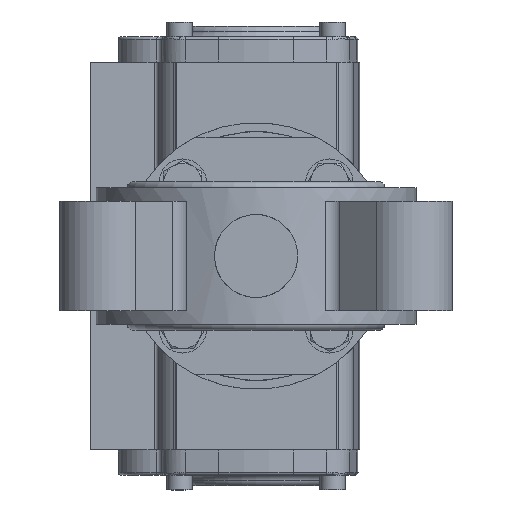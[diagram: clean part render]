
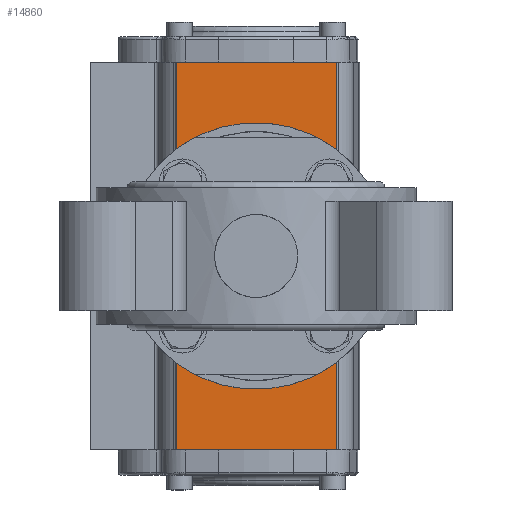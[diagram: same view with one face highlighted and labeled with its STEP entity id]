
A CAD part, front view. The second image highlights one B-rep face of the part: STEP entity #14860.
In plain terms, the highlighted planar face has unit normal (0, -1, 0).
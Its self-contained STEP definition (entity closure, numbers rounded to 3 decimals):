
#183 = AXIS2_PLACEMENT_3D ( 'NONE', #22318, #8105, #8489 ) ;
#508 = CARTESIAN_POINT ( 'NONE',  ( -17.678, -45., -17.678 ) ) ;
#560 = DIRECTION ( 'NONE',  ( 0., 0., -1. ) ) ;
#643 = DIRECTION ( 'NONE',  ( 0., -1., 0. ) ) ;
#644 = CARTESIAN_POINT ( 'NONE',  ( 0., -45., 0. ) ) ;
#786 = ORIENTED_EDGE ( 'NONE', *, *, #11677, .F. ) ;
#935 = EDGE_CURVE ( 'NONE', #21384, #21949, #25351, .T. ) ;
#1041 = EDGE_CURVE ( 'NONE', #10267, #7851, #16112, .T. ) ;
#1239 = EDGE_CURVE ( 'NONE', #7851, #10267, #21602, .T. ) ;
#1899 = CIRCLE ( 'NONE', #18675, 2.5 ) ;
#1925 = EDGE_CURVE ( 'NONE', #5822, #6557, #1899, .T. ) ;
#2034 = CIRCLE ( 'NONE', #16712, 15. ) ;
#2580 = AXIS2_PLACEMENT_3D ( 'NONE', #508, #643, #12842 ) ;
#3037 = FACE_OUTER_BOUND ( 'NONE', #5286, .T. ) ;
#3129 = AXIS2_PLACEMENT_3D ( 'NONE', #4871, #12884, #20923 ) ;
#3579 = DIRECTION ( 'NONE',  ( 0., 0., -1. ) ) ;
#4417 = VECTOR ( 'NONE', #24919, 1000. ) ;
#4709 = EDGE_CURVE ( 'NONE', #22223, #4990, #13308, .T. ) ;
#4871 = CARTESIAN_POINT ( 'NONE',  ( 65.45, -45., 27. ) ) ;
#4979 = AXIS2_PLACEMENT_3D ( 'NONE', #23489, #21266, #7044 ) ;
#4990 = VERTEX_POINT ( 'NONE', #5007 ) ;
#5007 = CARTESIAN_POINT ( 'NONE',  ( -65.45, -45., -27. ) ) ;
#5286 = EDGE_LOOP ( 'NONE', ( #7885, #19260, #21072, #24846 ) ) ;
#5358 = CARTESIAN_POINT ( 'NONE',  ( 17.678, -45., -20.178 ) ) ;
#5822 = VERTEX_POINT ( 'NONE', #11977 ) ;
#5910 = VECTOR ( 'NONE', #21596, 1000. ) ;
#6208 = CARTESIAN_POINT ( 'NONE',  ( 17.678, -45., 20.178 ) ) ;
#6368 = EDGE_LOOP ( 'NONE', ( #22770, #24958 ) ) ;
#6557 = VERTEX_POINT ( 'NONE', #6208 ) ;
#6599 = CARTESIAN_POINT ( 'NONE',  ( -65.45, -45., 27. ) ) ;
#6694 = CARTESIAN_POINT ( 'NONE',  ( -17.678, -45., 15.178 ) ) ;
#6836 = FACE_BOUND ( 'NONE', #22186, .T. ) ;
#7019 = DIRECTION ( 'NONE',  ( 0., 0., -1. ) ) ;
#7044 = DIRECTION ( 'NONE',  ( 0., 0., -1. ) ) ;
#7329 = CIRCLE ( 'NONE', #183, 2.5 ) ;
#7439 = AXIS2_PLACEMENT_3D ( 'NONE', #644, #8654, #22725 ) ;
#7526 = VERTEX_POINT ( 'NONE', #5358 ) ;
#7532 = CARTESIAN_POINT ( 'NONE',  ( -65.45, -45., 27. ) ) ;
#7732 = DIRECTION ( 'NONE',  ( 0., -1., 0. ) ) ;
#7743 = EDGE_CURVE ( 'NONE', #6557, #5822, #7329, .T. ) ;
#7772 = CARTESIAN_POINT ( 'NONE',  ( 65.45, -45., -27. ) ) ;
#7851 = VERTEX_POINT ( 'NONE', #22700 ) ;
#7885 = ORIENTED_EDGE ( 'NONE', *, *, #4709, .T. ) ;
#8105 = DIRECTION ( 'NONE',  ( 0., -1., 0. ) ) ;
#8227 = CARTESIAN_POINT ( 'NONE',  ( 65.45, -45., 27. ) ) ;
#8425 = DIRECTION ( 'NONE',  ( 0., 0., 1. ) ) ;
#8489 = DIRECTION ( 'NONE',  ( 0., 0., -1. ) ) ;
#8654 = DIRECTION ( 'NONE',  ( 0., -1., 0. ) ) ;
#8817 = FACE_BOUND ( 'NONE', #10606, .T. ) ;
#8985 = CARTESIAN_POINT ( 'NONE',  ( 65.45, -45., -27. ) ) ;
#9017 = CARTESIAN_POINT ( 'NONE',  ( 65.45, -45., 27. ) ) ;
#9415 = ORIENTED_EDGE ( 'NONE', *, *, #20973, .F. ) ;
#9647 = EDGE_CURVE ( 'NONE', #17898, #7526, #20946, .T. ) ;
#9848 = EDGE_LOOP ( 'NONE', ( #786, #12801 ) ) ;
#9891 = CARTESIAN_POINT ( 'NONE',  ( -17.678, -45., 17.678 ) ) ;
#9955 = CARTESIAN_POINT ( 'NONE',  ( 17.678, -45., 17.678 ) ) ;
#10215 = AXIS2_PLACEMENT_3D ( 'NONE', #23070, #17515, #25031 ) ;
#10267 = VERTEX_POINT ( 'NONE', #6694 ) ;
#10606 = EDGE_LOOP ( 'NONE', ( #17873, #24240 ) ) ;
#10655 = DIRECTION ( 'NONE',  ( 0., -1., 0. ) ) ;
#10862 = EDGE_CURVE ( 'NONE', #23438, #14511, #25072, .T. ) ;
#11538 = EDGE_CURVE ( 'NONE', #14511, #4990, #25918, .T. ) ;
#11677 = EDGE_CURVE ( 'NONE', #21949, #21384, #14741, .T. ) ;
#11977 = CARTESIAN_POINT ( 'NONE',  ( 17.678, -45., 15.178 ) ) ;
#12062 = CIRCLE ( 'NONE', #7439, 15. ) ;
#12390 = ORIENTED_EDGE ( 'NONE', *, *, #22007, .F. ) ;
#12488 = DIRECTION ( 'NONE',  ( 0., -1., 0. ) ) ;
#12756 = FACE_BOUND ( 'NONE', #9848, .T. ) ;
#12801 = ORIENTED_EDGE ( 'NONE', *, *, #935, .F. ) ;
#12842 = DIRECTION ( 'NONE',  ( 0., 0., -1. ) ) ;
#12884 = DIRECTION ( 'NONE',  ( 0., 1., 0. ) ) ;
#13002 = CARTESIAN_POINT ( 'NONE',  ( 17.678, -45., -15.178 ) ) ;
#13308 = LINE ( 'NONE', #7532, #17196 ) ;
#13567 = DIRECTION ( 'NONE',  ( 0., -1., 0. ) ) ;
#13604 = DIRECTION ( 'NONE',  ( 0., 0., -1. ) ) ;
#14016 = AXIS2_PLACEMENT_3D ( 'NONE', #9891, #10655, #560 ) ;
#14511 = VERTEX_POINT ( 'NONE', #8985 ) ;
#14634 = DIRECTION ( 'NONE',  ( 0., -1., 0. ) ) ;
#14741 = CIRCLE ( 'NONE', #2580, 2.5 ) ;
#14847 = PLANE ( 'NONE',  #3129 ) ;
#14860 = ADVANCED_FACE ( 'NONE', ( #24725, #12756, #18533, #8817, #6836, #3037 ), #14847, .F. ) ;
#14953 = CIRCLE ( 'NONE', #19173, 2.5 ) ;
#15021 = DIRECTION ( 'NONE',  ( 0., 0., -1. ) ) ;
#15651 = CARTESIAN_POINT ( 'NONE',  ( -17.678, -45., -20.178 ) ) ;
#16067 = EDGE_CURVE ( 'NONE', #7526, #17898, #14953, .T. ) ;
#16112 = CIRCLE ( 'NONE', #10215, 2.5 ) ;
#16712 = AXIS2_PLACEMENT_3D ( 'NONE', #20652, #12488, #8425 ) ;
#16713 = CARTESIAN_POINT ( 'NONE',  ( 0., -45., 15. ) ) ;
#16876 = LINE ( 'NONE', #9017, #4417 ) ;
#17196 = VECTOR ( 'NONE', #3579, 1000. ) ;
#17360 = AXIS2_PLACEMENT_3D ( 'NONE', #20099, #13567, #15021 ) ;
#17470 = EDGE_LOOP ( 'NONE', ( #24276, #20511 ) ) ;
#17515 = DIRECTION ( 'NONE',  ( 0., -1., 0. ) ) ;
#17529 = CARTESIAN_POINT ( 'NONE',  ( -17.678, -45., -15.178 ) ) ;
#17873 = ORIENTED_EDGE ( 'NONE', *, *, #1925, .F. ) ;
#17898 = VERTEX_POINT ( 'NONE', #13002 ) ;
#18058 = VECTOR ( 'NONE', #13604, 1000. ) ;
#18346 = EDGE_CURVE ( 'NONE', #23438, #22223, #16876, .T. ) ;
#18533 = FACE_BOUND ( 'NONE', #17470, .T. ) ;
#18675 = AXIS2_PLACEMENT_3D ( 'NONE', #9955, #7732, #19573 ) ;
#18720 = CARTESIAN_POINT ( 'NONE',  ( 17.678, -45., -17.678 ) ) ;
#19173 = AXIS2_PLACEMENT_3D ( 'NONE', #18720, #14634, #7019 ) ;
#19260 = ORIENTED_EDGE ( 'NONE', *, *, #11538, .F. ) ;
#19573 = DIRECTION ( 'NONE',  ( 0., 0., -1. ) ) ;
#20099 = CARTESIAN_POINT ( 'NONE',  ( -17.678, -45., -17.678 ) ) ;
#20511 = ORIENTED_EDGE ( 'NONE', *, *, #1239, .F. ) ;
#20527 = VERTEX_POINT ( 'NONE', #20587 ) ;
#20587 = CARTESIAN_POINT ( 'NONE',  ( 0., -45., -15. ) ) ;
#20652 = CARTESIAN_POINT ( 'NONE',  ( 0., -45., 0. ) ) ;
#20693 = VERTEX_POINT ( 'NONE', #16713 ) ;
#20923 = DIRECTION ( 'NONE',  ( 0., 0., 1. ) ) ;
#20946 = CIRCLE ( 'NONE', #4979, 2.5 ) ;
#20973 = EDGE_CURVE ( 'NONE', #20527, #20693, #12062, .T. ) ;
#21072 = ORIENTED_EDGE ( 'NONE', *, *, #10862, .F. ) ;
#21266 = DIRECTION ( 'NONE',  ( 0., -1., 0. ) ) ;
#21384 = VERTEX_POINT ( 'NONE', #17529 ) ;
#21596 = DIRECTION ( 'NONE',  ( -1., 0., 0. ) ) ;
#21602 = CIRCLE ( 'NONE', #14016, 2.5 ) ;
#21949 = VERTEX_POINT ( 'NONE', #15651 ) ;
#22007 = EDGE_CURVE ( 'NONE', #20693, #20527, #2034, .T. ) ;
#22186 = EDGE_LOOP ( 'NONE', ( #12390, #9415 ) ) ;
#22223 = VERTEX_POINT ( 'NONE', #6599 ) ;
#22318 = CARTESIAN_POINT ( 'NONE',  ( 17.678, -45., 17.678 ) ) ;
#22700 = CARTESIAN_POINT ( 'NONE',  ( -17.678, -45., 20.178 ) ) ;
#22725 = DIRECTION ( 'NONE',  ( 0., 0., 1. ) ) ;
#22770 = ORIENTED_EDGE ( 'NONE', *, *, #16067, .F. ) ;
#23070 = CARTESIAN_POINT ( 'NONE',  ( -17.678, -45., 17.678 ) ) ;
#23373 = CARTESIAN_POINT ( 'NONE',  ( 65.45, -45., 27. ) ) ;
#23438 = VERTEX_POINT ( 'NONE', #8227 ) ;
#23489 = CARTESIAN_POINT ( 'NONE',  ( 17.678, -45., -17.678 ) ) ;
#24240 = ORIENTED_EDGE ( 'NONE', *, *, #7743, .F. ) ;
#24276 = ORIENTED_EDGE ( 'NONE', *, *, #1041, .F. ) ;
#24725 = FACE_BOUND ( 'NONE', #6368, .T. ) ;
#24846 = ORIENTED_EDGE ( 'NONE', *, *, #18346, .T. ) ;
#24919 = DIRECTION ( 'NONE',  ( -1., 0., 0. ) ) ;
#24958 = ORIENTED_EDGE ( 'NONE', *, *, #9647, .F. ) ;
#25031 = DIRECTION ( 'NONE',  ( 0., 0., -1. ) ) ;
#25072 = LINE ( 'NONE', #23373, #18058 ) ;
#25351 = CIRCLE ( 'NONE', #17360, 2.5 ) ;
#25918 = LINE ( 'NONE', #7772, #5910 ) ;
